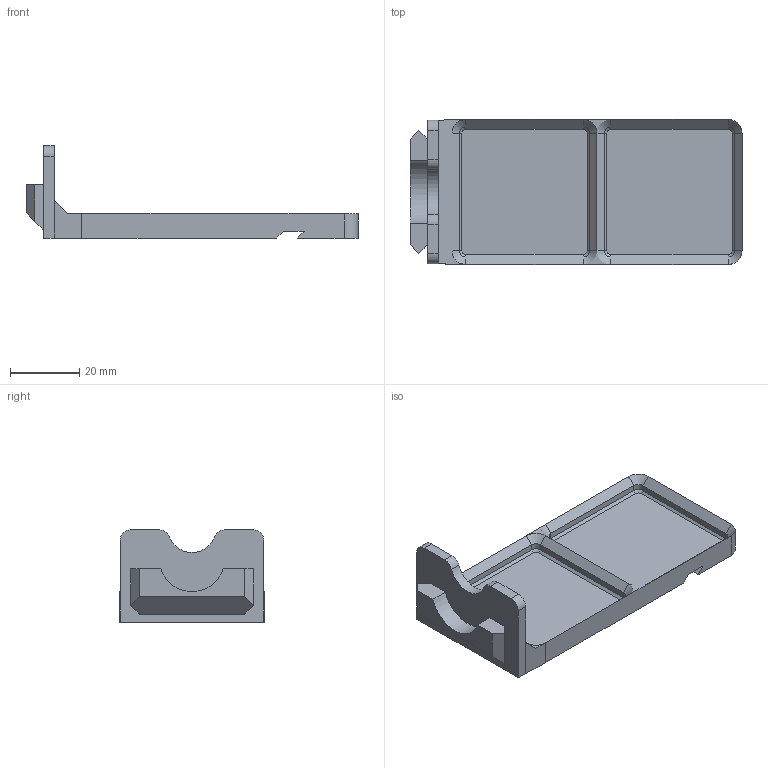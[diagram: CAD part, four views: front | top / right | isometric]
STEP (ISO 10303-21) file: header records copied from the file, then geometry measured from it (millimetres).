
FILE_DESCRIPTION(/* description */ ('','CAx-IF Rec.Pracs.---Representation and Presentation of Product Manufacturing Information (PMI)---4.0---2014-10-13'),/* implementation_level */ '2;1');
FILE_NAME(/* name */ 'Goews Triple Hanger Gridfinity 1x2 Base.step',/* time_stamp */ '2024-11-28T18:01:08-05:00',/* author */ (''),/* organization */ (''),/* preprocessor_version */ 'ST-DEVELOPER v20',/* originating_system */ 'Autodesk Translation Framework v13.20.0.188',/* authorisation */ '');
FILE_SCHEMA (('AP242_MANAGED_MODEL_BASED_3D_ENGINEERING_MIM_LF { 1 0 10303 442 1 1 4 }'));
Length unit declared in the file: millimetre
Products named in the file (1): Goews Triple Hanger Gridfinity 1x2 Base
Bounding box: 96.15 x 42 x 26.72 mm (x, y, z)
Volume: 16303.6 mm3; surface area: 12538.6 mm2
Topology: 1 solids, 1 shells, 97 faces, 226 edges, 132 vertices
Faces by surface type: plane 59, cylinder 22, cone 16
Entity records: 2719 total; most frequent: DIRECTION 476, CARTESIAN_POINT 456, ORIENTED_EDGE 452, EDGE_CURVE 226, LINE 172, VECTOR 172, AXIS2_PLACEMENT_3D 152, VERTEX_POINT 132
